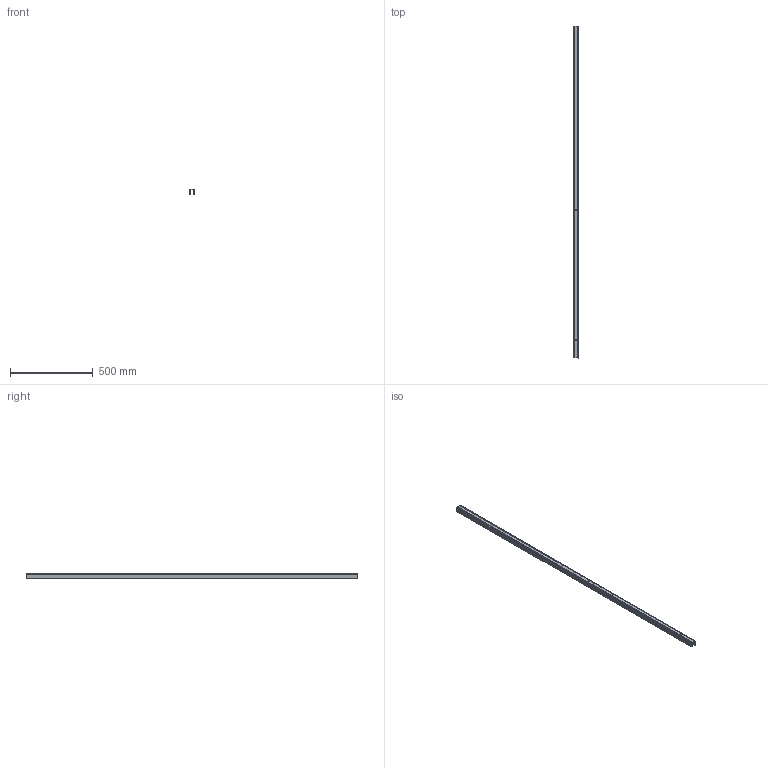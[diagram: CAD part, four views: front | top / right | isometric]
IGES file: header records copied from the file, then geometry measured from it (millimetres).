
Start section: SolidWorks IGES file using analytic representation for surfaces
Global section: file name: Y:\PRODUKT\Modele_3D_WWW\_KOLEKCJE_WWW\CTLS\CTLS-TRACK-2m-8717-8716\CTLS-TRACK-2m-8717-8716.IGS; native system: SolidWorks 2023; preprocessor: SolidWorks 2023; author: anna.bielnik; date: 240508.112955; units: millimetre
Bounding box: 32.46 x 2000 x 35.72 mm (x, y, z)
Surface area: 871442.6 mm2 (no closed solid volume)
Topology: 0 solids, 0 shells, 224 faces, 2010 edges, 2010 vertices
Faces by surface type: bspline 133, revolution 91
